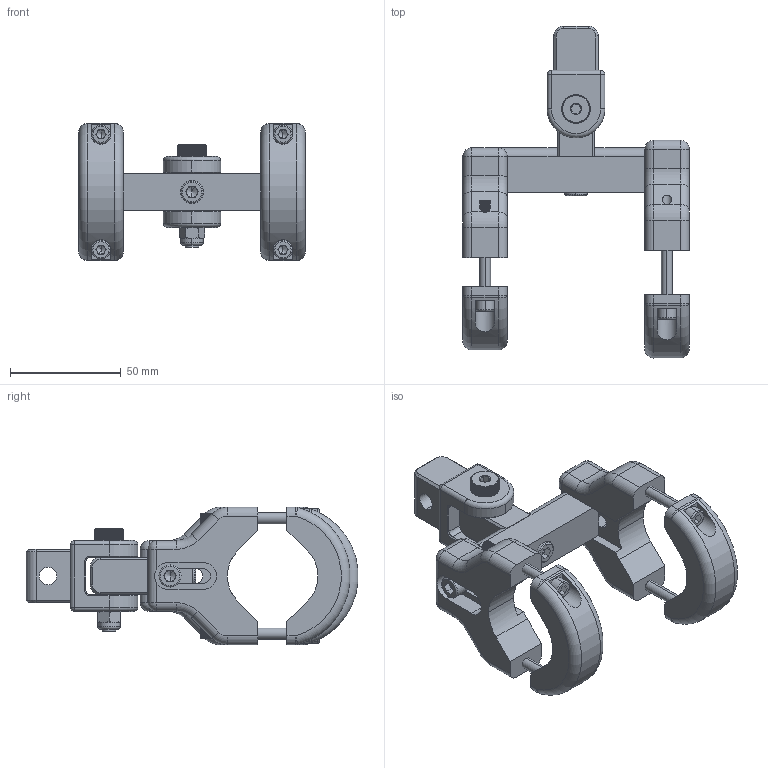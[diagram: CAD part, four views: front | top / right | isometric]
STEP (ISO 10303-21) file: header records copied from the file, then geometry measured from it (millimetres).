
FILE_DESCRIPTION((''),'2;1');
FILE_NAME('6158122010_ASM','2016-11-17T',('greextsd'),(''),'CREO PARAMETRIC BY PTC INC, 2016130','CREO PARAMETRIC BY PTC INC, 2016130','');
FILE_SCHEMA(('AUTOMOTIVE_DESIGN { 1 0 10303 214 1 1 1 1 }'));
Length unit declared in the file: millimetre
Products named in the file (11): 6158121770; 6158121790; 6158121820; 6158121810; 6158121690; 6158121930; 6158121900; 6158121860; 6158121870; 6158121880; 6158122010_ASM
Assembly tree (18 placements, depth 2):
  6158122010_ASM
    6158121770
    6158121790  x2
    6158121820  x2
    6158121810  x3
    6158121690  x2
    6158121930  x4
    6158121900
    6158121860
    6158121870
    6158121880
Bounding box: 102 x 149.57 x 62 mm (x, y, z)
Volume: 159762.9 mm3; surface area: 55636.4 mm2
Topology: 18 solids, 18 shells, 1838 faces, 4104 edges, 2280 vertices
Faces by surface type: cone 1130, plane 450, cylinder 186, torus 52, sphere 20
Entity records: 35287 total; most frequent: CARTESIAN_POINT 5261, DIRECTION 4114, ORIENTED_EDGE 3980, PRESENTATION_STYLE_ASSIGNMENT 2140, STYLED_ITEM 2000, CURVE_STYLE 1990, EDGE_CURVE 1990, AXIS2_PLACEMENT_3D 1502
